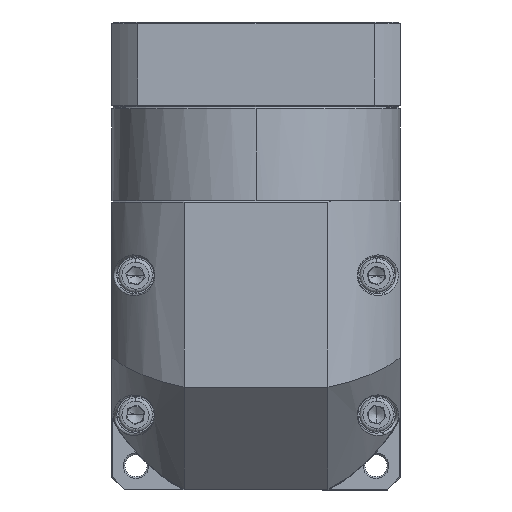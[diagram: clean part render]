
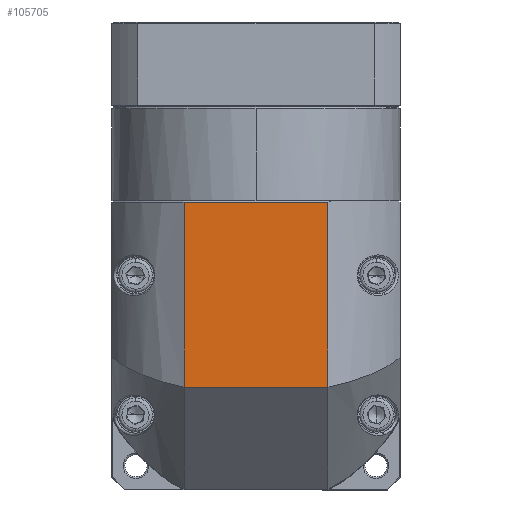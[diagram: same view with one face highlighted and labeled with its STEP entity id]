
A CAD part, top view. The second image highlights one B-rep face of the part: STEP entity #105705.
In plain terms, the highlighted planar face has unit normal (0, 0, 1).
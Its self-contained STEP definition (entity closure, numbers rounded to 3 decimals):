
#5797 = EDGE_CURVE ( 'NONE', #47372, #86753, #53380, .T. ) ;
#15652 = LINE ( 'NONE', #80306, #126533 ) ;
#17894 = VERTEX_POINT ( 'NONE', #43722 ) ;
#18996 = ORIENTED_EDGE ( 'NONE', *, *, #77616, .F. ) ;
#26420 = DIRECTION ( 'NONE',  ( 0., 1., 0. ) ) ;
#26907 = VECTOR ( 'NONE', #76727, 1000. ) ;
#27062 = CARTESIAN_POINT ( 'NONE',  ( -7.281, 39.325, 230.5 ) ) ;
#27375 = CARTESIAN_POINT ( 'NONE',  ( -28.494, -2.675, 230.5 ) ) ;
#28820 = VERTEX_POINT ( 'NONE', #111178 ) ;
#38781 = EDGE_CURVE ( 'NONE', #17894, #28820, #15652, .T. ) ;
#41573 = EDGE_LOOP ( 'NONE', ( #108008, #108903, #18996, #118488 ) ) ;
#43722 = CARTESIAN_POINT ( 'NONE',  ( -7.281, -15.175, 230.5 ) ) ;
#45160 = CARTESIAN_POINT ( 'NONE',  ( -28.494, 39.325, 230.5 ) ) ;
#47372 = VERTEX_POINT ( 'NONE', #27062 ) ;
#53380 = LINE ( 'NONE', #45160, #73671 ) ;
#57725 = DIRECTION ( 'NONE',  ( 0., -1., 0. ) ) ;
#62509 = EDGE_CURVE ( 'NONE', #28820, #86753, #69021, .T. ) ;
#66405 = CARTESIAN_POINT ( 'NONE',  ( -49.707, -60.675, 230.5 ) ) ;
#69021 = LINE ( 'NONE', #66405, #26907 ) ;
#73671 = VECTOR ( 'NONE', #120385, 1000. ) ;
#76727 = DIRECTION ( 'NONE',  ( 0., 1., 0. ) ) ;
#77616 = EDGE_CURVE ( 'NONE', #47372, #17894, #82583, .T. ) ;
#80306 = CARTESIAN_POINT ( 'NONE',  ( -28.494, -15.175, 230.5 ) ) ;
#82583 = LINE ( 'NONE', #101901, #85988 ) ;
#85988 = VECTOR ( 'NONE', #57725, 1000. ) ;
#86753 = VERTEX_POINT ( 'NONE', #123495 ) ;
#91286 = FACE_OUTER_BOUND ( 'NONE', #41573, .T. ) ;
#100749 = PLANE ( 'NONE',  #117493 ) ;
#101901 = CARTESIAN_POINT ( 'NONE',  ( -7.281, -60.675, 230.5 ) ) ;
#105705 = ADVANCED_FACE ( 'NONE', ( #91286 ), #100749, .T. ) ;
#108008 = ORIENTED_EDGE ( 'NONE', *, *, #62509, .F. ) ;
#108903 = ORIENTED_EDGE ( 'NONE', *, *, #38781, .F. ) ;
#111178 = CARTESIAN_POINT ( 'NONE',  ( -49.707, -15.175, 230.5 ) ) ;
#117493 = AXIS2_PLACEMENT_3D ( 'NONE', #27375, #123243, #26420 ) ;
#118488 = ORIENTED_EDGE ( 'NONE', *, *, #5797, .T. ) ;
#120385 = DIRECTION ( 'NONE',  ( -1., 0., 0. ) ) ;
#122620 = DIRECTION ( 'NONE',  ( -1., 0., 0. ) ) ;
#123243 = DIRECTION ( 'NONE',  ( 0., 0., 1. ) ) ;
#123495 = CARTESIAN_POINT ( 'NONE',  ( -49.707, 39.325, 230.5 ) ) ;
#126533 = VECTOR ( 'NONE', #122620, 1000. ) ;
